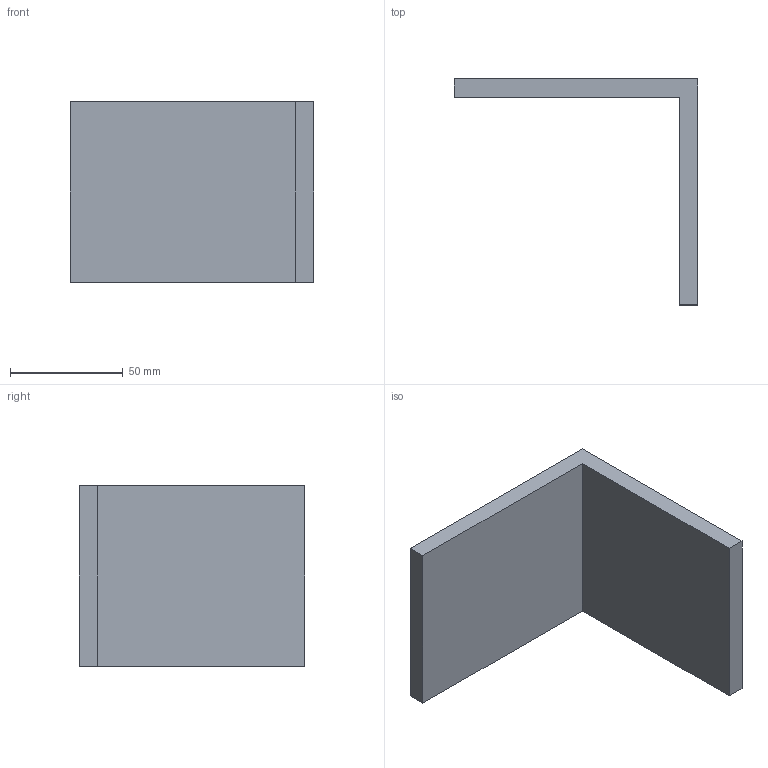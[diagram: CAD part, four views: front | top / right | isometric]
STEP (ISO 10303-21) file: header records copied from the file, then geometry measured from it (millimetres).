
FILE_DESCRIPTION(('Open CASCADE Model'),'2;1');
FILE_NAME('Open CASCADE Shape Model','2026-10-15T15:10:04',('Author'),( 'Open CASCADE'),'Open CASCADE STEP processor 8.0','Open CASCADE 8.0' ,'Unknown');
FILE_SCHEMA(('AUTOMOTIVE_DESIGN { 1 0 10303 214 1 1 1 1 }'));
Length unit declared in the file: millimetre
Products named in the file (1): U04_ANGULO_ARMADO_2x100x80x8_P05 72
Bounding box: 108 x 100 x 80 mm (x, y, z)
Volume: 128000 mm3; surface area: 36480 mm2
Topology: 1 solids, 1 shells, 8 faces, 18 edges, 12 vertices
Faces by surface type: plane 8
Entity records: 466 total; most frequent: CARTESIAN_POINT 75, DIRECTION 72, LINE 54, VECTOR 54, ORIENTED_EDGE 36, PCURVE 36, DEFINITIONAL_REPRESENTATION 36, EDGE_CURVE 18
